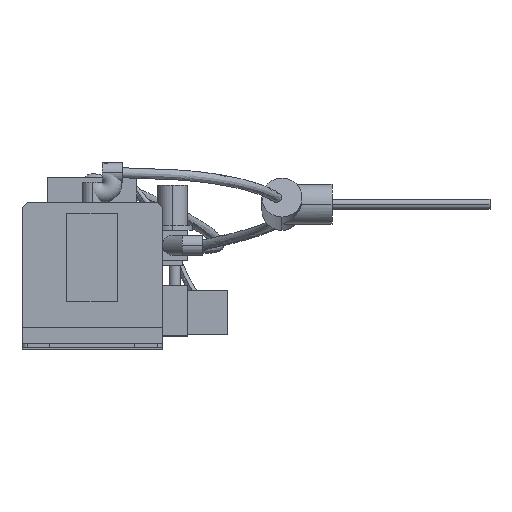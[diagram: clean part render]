
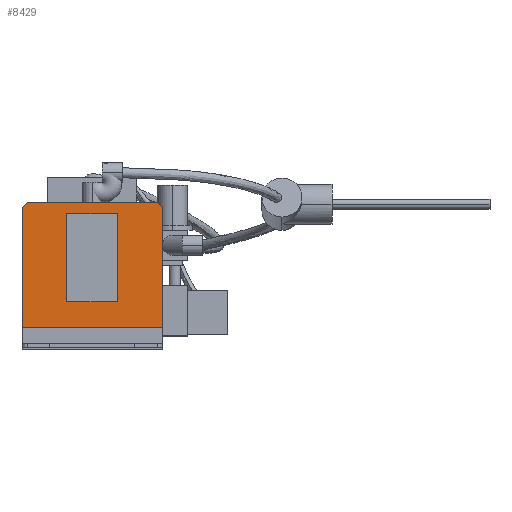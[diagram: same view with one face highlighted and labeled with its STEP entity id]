
A CAD part, top view. The second image highlights one B-rep face of the part: STEP entity #8429.
In plain terms, the highlighted planar face has unit normal (0, 0, 1).
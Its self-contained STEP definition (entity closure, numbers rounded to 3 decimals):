
#34 = CARTESIAN_POINT ( 'NONE',  ( -25.4, 59., 0. ) ) ;
#222 = CARTESIAN_POINT ( 'NONE',  ( 70., -55., 0. ) ) ;
#269 = CARTESIAN_POINT ( 'NONE',  ( -25.4, 59., 0. ) ) ;
#635 = ORIENTED_EDGE ( 'NONE', *, *, #874, .F. ) ;
#874 = EDGE_CURVE ( 'NONE', #3560, #5486, #3636, .T. ) ;
#945 = CARTESIAN_POINT ( 'NONE',  ( 65., 70., 0. ) ) ;
#948 = VECTOR ( 'NONE', #7451, 1000. ) ;
#952 = DIRECTION ( 'NONE',  ( 0., 0., -1. ) ) ;
#1316 = VECTOR ( 'NONE', #7586, 1000. ) ;
#1448 = EDGE_CURVE ( 'NONE', #5486, #3144, #2220, .T. ) ;
#1461 = ORIENTED_EDGE ( 'NONE', *, *, #7881, .T. ) ;
#1577 = VECTOR ( 'NONE', #6515, 1000. ) ;
#1718 = DIRECTION ( 'NONE',  ( 1., 0., 0. ) ) ;
#1838 = CARTESIAN_POINT ( 'NONE',  ( -25.4, -29., 0. ) ) ;
#1929 = VECTOR ( 'NONE', #7174, 1000. ) ;
#1952 = LINE ( 'NONE', #4151, #7276 ) ;
#1959 = VERTEX_POINT ( 'NONE', #4264 ) ;
#1966 = EDGE_CURVE ( 'NONE', #5197, #1959, #6329, .T. ) ;
#1999 = VERTEX_POINT ( 'NONE', #222 ) ;
#2055 = CARTESIAN_POINT ( 'NONE',  ( 25.4, 59., 0. ) ) ;
#2138 = ORIENTED_EDGE ( 'NONE', *, *, #4520, .F. ) ;
#2220 = LINE ( 'NONE', #269, #7594 ) ;
#2747 = ORIENTED_EDGE ( 'NONE', *, *, #1966, .T. ) ;
#2749 = CARTESIAN_POINT ( 'NONE',  ( -70., 65., 0. ) ) ;
#2877 = ORIENTED_EDGE ( 'NONE', *, *, #9157, .T. ) ;
#2884 = FACE_OUTER_BOUND ( 'NONE', #8913, .T. ) ;
#2946 = ORIENTED_EDGE ( 'NONE', *, *, #4099, .T. ) ;
#3144 = VERTEX_POINT ( 'NONE', #34 ) ;
#3197 = VECTOR ( 'NONE', #6891, 1000. ) ;
#3226 = LINE ( 'NONE', #5364, #1316 ) ;
#3294 = CARTESIAN_POINT ( 'NONE',  ( -25.4, -29., 0. ) ) ;
#3441 = LINE ( 'NONE', #6143, #3197 ) ;
#3454 = VERTEX_POINT ( 'NONE', #945 ) ;
#3506 = LINE ( 'NONE', #6555, #1577 ) ;
#3560 = VERTEX_POINT ( 'NONE', #8455 ) ;
#3636 = LINE ( 'NONE', #2055, #1929 ) ;
#3647 = LINE ( 'NONE', #5547, #9032 ) ;
#3935 = ORIENTED_EDGE ( 'NONE', *, *, #6472, .T. ) ;
#3989 = VERTEX_POINT ( 'NONE', #8026 ) ;
#4099 = EDGE_CURVE ( 'NONE', #3454, #3989, #3506, .T. ) ;
#4151 = CARTESIAN_POINT ( 'NONE',  ( -70., 65., 0. ) ) ;
#4193 = LINE ( 'NONE', #1838, #7872 ) ;
#4205 = DIRECTION ( 'NONE',  ( -0.707, -0.707, 0. ) ) ;
#4264 = CARTESIAN_POINT ( 'NONE',  ( -70., -55., 0. ) ) ;
#4424 = VERTEX_POINT ( 'NONE', #3294 ) ;
#4520 = EDGE_CURVE ( 'NONE', #4424, #3560, #4193, .T. ) ;
#4600 = CARTESIAN_POINT ( 'NONE',  ( 70., 70., 0. ) ) ;
#4648 = DIRECTION ( 'NONE',  ( -0.707, 0.707, 0. ) ) ;
#4806 = CARTESIAN_POINT ( 'NONE',  ( 25.4, 59., 0. ) ) ;
#5079 = CARTESIAN_POINT ( 'NONE',  ( 70., 65., 0. ) ) ;
#5099 = CARTESIAN_POINT ( 'NONE',  ( -70., 65., 0. ) ) ;
#5197 = VERTEX_POINT ( 'NONE', #2749 ) ;
#5364 = CARTESIAN_POINT ( 'NONE',  ( 70., 65., 0. ) ) ;
#5449 = DIRECTION ( 'NONE',  ( 1., 0., 0. ) ) ;
#5486 = VERTEX_POINT ( 'NONE', #4806 ) ;
#5547 = CARTESIAN_POINT ( 'NONE',  ( -70., -55., 0. ) ) ;
#5558 = AXIS2_PLACEMENT_3D ( 'NONE', #4600, #952, #6055 ) ;
#5612 = LINE ( 'NONE', #6864, #7115 ) ;
#5615 = ORIENTED_EDGE ( 'NONE', *, *, #1448, .F. ) ;
#6055 = DIRECTION ( 'NONE',  ( -1., 0., 0. ) ) ;
#6143 = CARTESIAN_POINT ( 'NONE',  ( -25.4, 59., 0. ) ) ;
#6329 = LINE ( 'NONE', #5099, #948 ) ;
#6472 = EDGE_CURVE ( 'NONE', #1959, #1999, #3647, .T. ) ;
#6515 = DIRECTION ( 'NONE',  ( -1., 0., 0. ) ) ;
#6555 = CARTESIAN_POINT ( 'NONE',  ( -65., 70., 0. ) ) ;
#6705 = EDGE_CURVE ( 'NONE', #3989, #5197, #1952, .T. ) ;
#6787 = FACE_BOUND ( 'NONE', #7000, .T. ) ;
#6864 = CARTESIAN_POINT ( 'NONE',  ( 65., 70., 0. ) ) ;
#6865 = DIRECTION ( 'NONE',  ( -1., 0., 0. ) ) ;
#6891 = DIRECTION ( 'NONE',  ( 0., -1., 0. ) ) ;
#7000 = EDGE_LOOP ( 'NONE', ( #7370, #5615, #635, #2138 ) ) ;
#7115 = VECTOR ( 'NONE', #4648, 1000. ) ;
#7174 = DIRECTION ( 'NONE',  ( 0., 1., 0. ) ) ;
#7276 = VECTOR ( 'NONE', #4205, 1000. ) ;
#7370 = ORIENTED_EDGE ( 'NONE', *, *, #9158, .F. ) ;
#7451 = DIRECTION ( 'NONE',  ( 0., -1., 0. ) ) ;
#7517 = PLANE ( 'NONE',  #5558 ) ;
#7586 = DIRECTION ( 'NONE',  ( 0., 1., 0. ) ) ;
#7594 = VECTOR ( 'NONE', #6865, 1000. ) ;
#7872 = VECTOR ( 'NONE', #1718, 1000. ) ;
#7881 = EDGE_CURVE ( 'NONE', #1999, #9321, #3226, .T. ) ;
#8026 = CARTESIAN_POINT ( 'NONE',  ( -65., 70., 0. ) ) ;
#8429 = ADVANCED_FACE ( 'NONE', ( #2884, #6787 ), #7517, .F. ) ;
#8455 = CARTESIAN_POINT ( 'NONE',  ( 25.4, -29., 0. ) ) ;
#8913 = EDGE_LOOP ( 'NONE', ( #3935, #1461, #2877, #2946, #9497, #2747 ) ) ;
#9032 = VECTOR ( 'NONE', #5449, 1000. ) ;
#9157 = EDGE_CURVE ( 'NONE', #9321, #3454, #5612, .T. ) ;
#9158 = EDGE_CURVE ( 'NONE', #3144, #4424, #3441, .T. ) ;
#9321 = VERTEX_POINT ( 'NONE', #5079 ) ;
#9497 = ORIENTED_EDGE ( 'NONE', *, *, #6705, .T. ) ;
